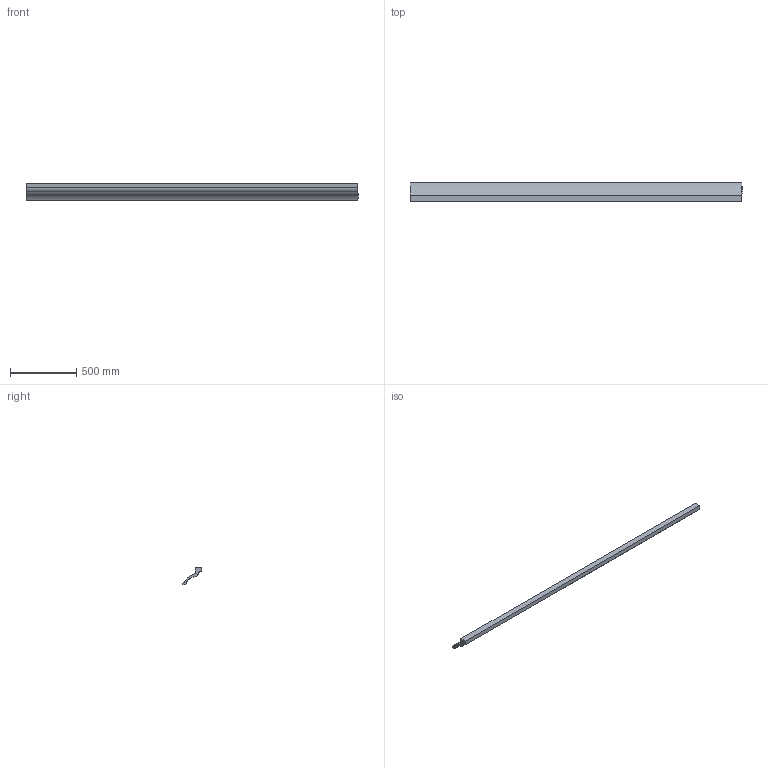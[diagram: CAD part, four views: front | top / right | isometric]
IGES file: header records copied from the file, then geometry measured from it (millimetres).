
Start section: SolidWorks IGES file using analytic representation for surfaces
Global section: file name: C:\Users\Stagiaire\Desktop\Rendu 3D\CORNICHE\191 CORNICHE\191_CORNICHE.IGS; native system: SolidWorks 2014; preprocessor: SolidWorks 2014; author: Stagiaire; date: 140912.162911; units: millimetre
Bounding box: 2500 x 140 x 130 mm (x, y, z)
Surface area: 1112940 mm2 (no closed solid volume)
Topology: 0 solids, 0 shells, 13 faces, 144 edges, 144 vertices
Faces by surface type: bspline 8, revolution 5
